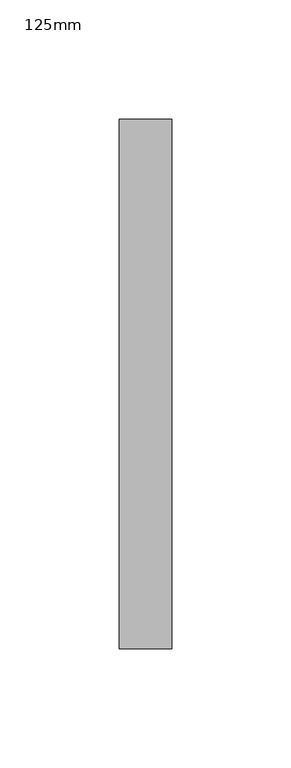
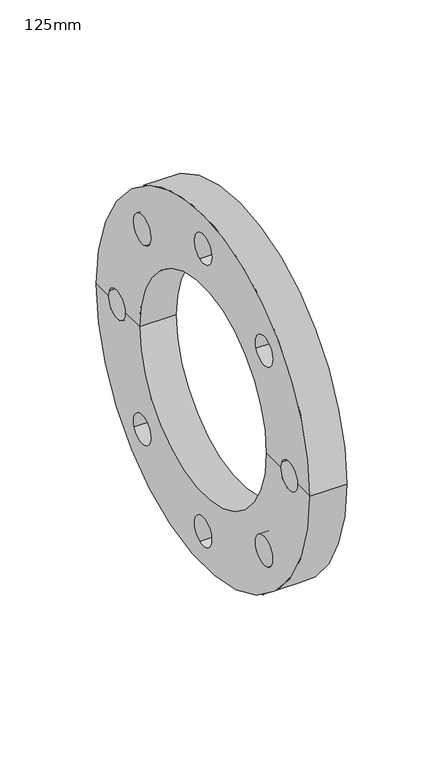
"""IFC4 building model written with IfcOpenShell, lengths in millimetres: pipe fitting geometry, Durapipe_PipeFitting_PVC_BackingFlange : 125mm."""

from ifc_helpers import new_model, si_unit, frame, origin, place, context, project, spatial, polyline, circle_curve, source, transform, mapped, element, save
from ifc_brep_helpers import plane_surface, cylinder_surface, revolved_surface, advanced_brep


def pipe_fitting_125mm_e40749f2(model_context):
    return source(origin(), model_context, "Body", "AdvancedBrep", [
        advanced_brep(
        [(-11.0, 111.0, 0.0), (11.0, 111.0, 0.0), (11.0, -111.0, 0.0), (-11.0, -111.0, 0.0), (-11.0, -98.4999325, 0.0), (-11.0, -97.8136303, -3.4804683), (-11.0, -80.5000552, 0.0), (-11.0, -66.0, 0.0), (-11.0, 66.0, 0.0), (-11.0, 80.5000552, 0.0), (-11.0, 81.1863574, -3.4140075), (-11.0, 98.4999325, 0.0), (-11.0, 71.625744, -66.7036186), (-11.0, 54.993356, -59.8214917), (-11.0, 3.4804683, -97.8136303), (-11.0, -3.4140075, -81.1863574), (-11.0, -66.7036186, -71.625744), (-11.0, -59.8214917, -54.993356), (-11.0, 97.8136303, 3.4804683), (-11.0, -81.1863574, 3.4140075), (-11.0, 66.7036186, 71.625744), (-11.0, 59.8214917, 54.993356), (-11.0, -3.4804683, 97.8136303), (-11.0, 3.4140075, 81.1863574), (-11.0, -71.625744, 66.7036186), (-11.0, -54.993356, 59.8214917), (11.0, 66.0, 0.0), (11.0, -66.0, 0.0), (11.0, -80.5000552, 0.0), (11.0, -97.8136303, -3.4804683), (11.0, -98.4999325, 0.0), (11.0, 98.4999325, 0.0), (11.0, 81.1863574, -3.4140075), (11.0, 80.5000552, 0.0), (11.0, 54.993356, -59.8214917), (11.0, 71.625744, -66.7036186), (11.0, -3.4140075, -81.1863574), (11.0, 3.4804683, -97.8136303), (11.0, -59.8214917, -54.993356), (11.0, -66.7036186, -71.625744), (11.0, 97.8136303, 3.4804683), (11.0, -81.1863574, 3.4140075), (11.0, 59.8214917, 54.993356), (11.0, 66.7036186, 71.625744), (11.0, 3.4140075, 81.1863574), (11.0, -3.4804683, 97.8136303), (11.0, -54.993356, 59.8214917), (11.0, -71.625744, 66.7036186)],
        [
            (0, 1),
            (1, 2, circle_curve(frame((11.0, 0.0, 0.0), z_axis=(-1.0, 0.0, 0.0), x_axis=(0.0, 1.0, 0.0)), 111.0)),
            (2, 3),
            (3, 0, circle_curve(frame((-11.0, 0.0, 0.0), z_axis=(1.0, 0.0, 0.0), x_axis=(0.0, 1.0, 0.0)), 111.0)),
            (0, 3, circle_curve(frame((-11.0, 0.0, 0.0), z_axis=(1.0, 0.0, 0.0), x_axis=(0.0, 1.0, 0.0)), 111.0)),
            (2, 1, circle_curve(frame((11.0, 0.0, 0.0), z_axis=(-1.0, 0.0, 0.0), x_axis=(0.0, 1.0, 0.0)), 111.0)),
            (3, 4),
            (4, 5, circle_curve(frame((-11.0, -89.4999938, -0.0332304), z_axis=(1.0, 0.0, 0.0), x_axis=(0.0, -0.9237373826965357, -0.38302643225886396)), 9.0)),
            (5, 6, circle_curve(frame((-11.0, -89.4999938, -0.0332304), z_axis=(1.0, 0.0, 0.0), x_axis=(0.0, -0.9237373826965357, -0.38302643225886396)), 9.0)),
            (6, 7),
            (7, 8, circle_curve(frame((-11.0, 0.0, 0.0), z_axis=(1.0, 0.0, 0.0), x_axis=(0.0, 1.0, 0.0)), 66.0)),
            (8, 9),
            (9, 10, circle_curve(frame((-11.0, 89.4999938, 0.0332304), z_axis=(1.0, 0.0, 0.0), x_axis=(0.0, 0.92373738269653, 0.38302643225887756)), 9.0)),
            (10, 11, circle_curve(frame((-11.0, 89.4999938, 0.0332304), z_axis=(1.0, 0.0, 0.0), x_axis=(0.0, 0.92373738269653, 0.38302643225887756)), 9.0)),
            (11, 0),
            (12, 13, circle_curve(frame((-11.0, 63.30955, -63.2625551), z_axis=(1.0, 0.0, 0.0), x_axis=(0.0, 0.9240215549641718, -0.3823403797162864)), 9.0)),
            (13, 12, circle_curve(frame((-11.0, 63.30955, -63.2625551), z_axis=(1.0, 0.0, 0.0), x_axis=(0.0, 0.9240215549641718, -0.3823403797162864)), 9.0)),
            (14, 15, circle_curve(frame((-11.0, 0.0332304, -89.4999938), z_axis=(1.0, 0.0, 0.0), x_axis=(0.0, 0.3830264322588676, -0.9237373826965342)), 9.0)),
            (15, 14, circle_curve(frame((-11.0, 0.0332304, -89.4999938), z_axis=(1.0, 0.0, 0.0), x_axis=(0.0, 0.3830264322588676, -0.9237373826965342)), 9.0)),
            (16, 17, circle_curve(frame((-11.0, -63.2625551, -63.30955), z_axis=(1.0, 0.0, 0.0), x_axis=(0.0, -0.3823403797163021, -0.9240215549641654)), 9.0)),
            (17, 16, circle_curve(frame((-11.0, -63.2625551, -63.30955), z_axis=(1.0, 0.0, 0.0), x_axis=(0.0, -0.3823403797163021, -0.9240215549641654)), 9.0)),
            (11, 18, circle_curve(frame((-11.0, 89.4999938, 0.0332304), z_axis=(1.0, 0.0, 0.0), x_axis=(0.0, 0.92373738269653, 0.38302643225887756)), 9.0)),
            (18, 9, circle_curve(frame((-11.0, 89.4999938, 0.0332304), z_axis=(1.0, 0.0, 0.0), x_axis=(0.0, 0.92373738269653, 0.38302643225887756)), 9.0)),
            (8, 7, circle_curve(frame((-11.0, 0.0, 0.0), z_axis=(1.0, 0.0, 0.0), x_axis=(0.0, 1.0, 0.0)), 66.0)),
            (6, 19, circle_curve(frame((-11.0, -89.4999938, -0.0332304), z_axis=(1.0, 0.0, 0.0), x_axis=(0.0, -0.9237373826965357, -0.38302643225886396)), 9.0)),
            (19, 4, circle_curve(frame((-11.0, -89.4999938, -0.0332304), z_axis=(1.0, 0.0, 0.0), x_axis=(0.0, -0.9237373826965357, -0.38302643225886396)), 9.0)),
            (20, 21, circle_curve(frame((-11.0, 63.2625551, 63.30955), z_axis=(1.0, 0.0, 0.0), x_axis=(0.0, 0.3823403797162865, 0.9240215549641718)), 9.0)),
            (21, 20, circle_curve(frame((-11.0, 63.2625551, 63.30955), z_axis=(1.0, 0.0, 0.0), x_axis=(0.0, 0.3823403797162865, 0.9240215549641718)), 9.0)),
            (22, 23, circle_curve(frame((-11.0, -0.0332304, 89.4999938), z_axis=(1.0, 0.0, 0.0), x_axis=(0.0, -0.38302643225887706, 0.9237373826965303)), 9.0)),
            (23, 22, circle_curve(frame((-11.0, -0.0332304, 89.4999938), z_axis=(1.0, 0.0, 0.0), x_axis=(0.0, -0.38302643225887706, 0.9237373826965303)), 9.0)),
            (24, 25, circle_curve(frame((-11.0, -63.30955, 63.2625551), z_axis=(1.0, 0.0, 0.0), x_axis=(0.0, -0.9240215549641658, 0.38234037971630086)), 9.0)),
            (25, 24, circle_curve(frame((-11.0, -63.30955, 63.2625551), z_axis=(1.0, 0.0, 0.0), x_axis=(0.0, -0.9240215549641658, 0.38234037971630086)), 9.0)),
            (26, 8),
            (7, 27),
            (27, 26, circle_curve(frame((11.0, 0.0, 0.0), z_axis=(1.0, 0.0, 0.0), x_axis=(0.0, 1.0, 0.0)), 66.0)),
            (26, 27, circle_curve(frame((11.0, 0.0, 0.0), z_axis=(1.0, 0.0, 0.0), x_axis=(0.0, 1.0, 0.0)), 66.0)),
            (27, 28),
            (28, 29, circle_curve(frame((11.0, -89.4999938, -0.0332304), z_axis=(-1.0, 0.0, 0.0), x_axis=(0.0, -0.9237373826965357, -0.38302643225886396)), 9.0)),
            (29, 30, circle_curve(frame((11.0, -89.4999938, -0.0332304), z_axis=(-1.0, 0.0, 0.0), x_axis=(0.0, -0.9237373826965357, -0.38302643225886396)), 9.0)),
            (30, 2),
            (1, 31),
            (31, 32, circle_curve(frame((11.0, 89.4999938, 0.0332304), z_axis=(-1.0, 0.0, 0.0), x_axis=(0.0, 0.92373738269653, 0.38302643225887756)), 9.0)),
            (32, 33, circle_curve(frame((11.0, 89.4999938, 0.0332304), z_axis=(-1.0, 0.0, 0.0), x_axis=(0.0, 0.92373738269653, 0.38302643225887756)), 9.0)),
            (33, 26),
            (34, 35, circle_curve(frame((11.0, 63.30955, -63.2625551), z_axis=(-1.0, 0.0, 0.0), x_axis=(0.0, 0.9240215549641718, -0.3823403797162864)), 9.0)),
            (35, 34, circle_curve(frame((11.0, 63.30955, -63.2625551), z_axis=(-1.0, 0.0, 0.0), x_axis=(0.0, 0.9240215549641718, -0.3823403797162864)), 9.0)),
            (36, 37, circle_curve(frame((11.0, 0.0332304, -89.4999938), z_axis=(-1.0, 0.0, 0.0), x_axis=(0.0, 0.3830264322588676, -0.9237373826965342)), 9.0)),
            (37, 36, circle_curve(frame((11.0, 0.0332304, -89.4999938), z_axis=(-1.0, 0.0, 0.0), x_axis=(0.0, 0.3830264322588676, -0.9237373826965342)), 9.0)),
            (38, 39, circle_curve(frame((11.0, -63.2625551, -63.30955), z_axis=(-1.0, 0.0, 0.0), x_axis=(0.0, -0.3823403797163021, -0.9240215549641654)), 9.0)),
            (39, 38, circle_curve(frame((11.0, -63.2625551, -63.30955), z_axis=(-1.0, 0.0, 0.0), x_axis=(0.0, -0.3823403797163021, -0.9240215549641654)), 9.0)),
            (33, 40, circle_curve(frame((11.0, 89.4999938, 0.0332304), z_axis=(-1.0, 0.0, 0.0), x_axis=(0.0, 0.92373738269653, 0.38302643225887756)), 9.0)),
            (40, 31, circle_curve(frame((11.0, 89.4999938, 0.0332304), z_axis=(-1.0, 0.0, 0.0), x_axis=(0.0, 0.92373738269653, 0.38302643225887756)), 9.0)),
            (30, 41, circle_curve(frame((11.0, -89.4999938, -0.0332304), z_axis=(-1.0, 0.0, 0.0), x_axis=(0.0, -0.9237373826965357, -0.38302643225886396)), 9.0)),
            (41, 28, circle_curve(frame((11.0, -89.4999938, -0.0332304), z_axis=(-1.0, 0.0, 0.0), x_axis=(0.0, -0.9237373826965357, -0.38302643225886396)), 9.0)),
            (42, 43, circle_curve(frame((11.0, 63.2625551, 63.30955), z_axis=(-1.0, 0.0, 0.0), x_axis=(0.0, 0.3823403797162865, 0.9240215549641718)), 9.0)),
            (43, 42, circle_curve(frame((11.0, 63.2625551, 63.30955), z_axis=(-1.0, 0.0, 0.0), x_axis=(0.0, 0.3823403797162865, 0.9240215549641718)), 9.0)),
            (44, 45, circle_curve(frame((11.0, -0.0332304, 89.4999938), z_axis=(-1.0, 0.0, 0.0), x_axis=(0.0, -0.38302643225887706, 0.9237373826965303)), 9.0)),
            (45, 44, circle_curve(frame((11.0, -0.0332304, 89.4999938), z_axis=(-1.0, 0.0, 0.0), x_axis=(0.0, -0.38302643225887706, 0.9237373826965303)), 9.0)),
            (46, 47, circle_curve(frame((11.0, -63.30955, 63.2625551), z_axis=(-1.0, 0.0, 0.0), x_axis=(0.0, -0.9240215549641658, 0.38234037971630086)), 9.0)),
            (47, 46, circle_curve(frame((11.0, -63.30955, 63.2625551), z_axis=(-1.0, 0.0, 0.0), x_axis=(0.0, -0.9240215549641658, 0.38234037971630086)), 9.0)),
            (36, 15),
            (14, 37),
            (34, 13),
            (12, 35),
            (32, 10),
            (18, 40),
            (42, 21),
            (20, 43),
            (44, 23),
            (22, 45),
            (46, 25),
            (24, 47),
            (41, 19),
            (5, 29),
            (38, 17),
            (16, 39),
        ],
        [
            cylinder_surface(frame((-29.7738734, 0.0, 0.0), z_axis=(-1.0, 0.0, 0.0), x_axis=(0.0, 1.0, 0.0)), 111.0),
            plane_surface(frame((-11.0, 0.0, 0.0), z_axis=(-1.0, 0.0, 0.0), x_axis=(0.0, 1.0, 0.0))),
            revolved_surface(polyline([(-11.0, 66.0, 0.0), (11.0, 66.0, 0.0)]), (-29.7738734, 0.0, 0.0), (-1.0, 0.0, 0.0)),
            plane_surface(frame((11.0, 0.0, 0.0), z_axis=(1.0, 0.0, 0.0), x_axis=(0.0, 1.0, 0.0))),
            revolved_surface(polyline([(-11.000000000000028, 3.4804682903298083, -97.81363024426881), (10.999999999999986, 3.4804682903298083, -97.81363024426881)]), (39.0, 0.0332304, -89.4999938), (-1.0000000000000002, 0.0, 0.0)),
            revolved_surface(polyline([(-11.0, 71.62574399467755, -66.70361851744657), (11.0, 71.62574399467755, -66.70361851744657)]), (39.0, 63.30955, -63.2625551), (-1.0, 0.0, 0.0)),
            revolved_surface(polyline([(-11.0, 97.81363024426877, 3.480468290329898), (11.0, 97.81363024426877, 3.480468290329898)]), (39.0, 89.4999938, 0.0332304), (-1.0, 0.0, 0.0)),
            revolved_surface(polyline([(-11.000000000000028, 66.70361851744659, 71.62574399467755), (10.999999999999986, 66.70361851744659, 71.62574399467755)]), (39.0, 63.2625551, 63.30955), (-1.0000000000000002, 0.0, 0.0)),
            revolved_surface(polyline([(-11.000000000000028, -3.4804682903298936, 97.81363024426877), (10.999999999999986, -3.4804682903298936, 97.81363024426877)]), (39.0, -0.0332304, 89.4999938), (-1.0000000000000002, 0.0, 0.0)),
            revolved_surface(polyline([(-11.0, -71.62574399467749, 66.70361851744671), (11.0, -71.62574399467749, 66.70361851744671)]), (39.0, -63.30955, 63.2625551), (-1.0, 0.0, 0.0)),
            revolved_surface(polyline([(-11.000000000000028, -97.81363024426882, -3.4804682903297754), (10.999999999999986, -97.81363024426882, -3.4804682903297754)]), (39.0, -89.4999938, -0.0332304), (-1.0000000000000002, 0.0, 0.0)),
            revolved_surface(polyline([(-11.000000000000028, -66.70361851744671, -71.62574399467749), (10.999999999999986, -66.70361851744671, -71.62574399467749)]), (39.0, -63.2625551, -63.30955), (-1.0000000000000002, 0.0, 0.0)),
        ],
        [
            (0, [[1, 2, 3, 4]]),
            (0, [[-1, 5, -3, 6]]),
            (1, [[-4, 7, 8, 9, 10, 11, 12, 13, 14, 15], [16, 17], [18, 19], [20, 21]]),
            (1, [[-5, -15, 22, 23, -12, 24, -10, 25, 26, -7], [27, 28], [29, 30], [31, 32]]),
            (2, [[33, -11, 34, 35]]),
            (2, [[-33, 36, -34, -24]]),
            (3, [[-35, 37, 38, 39, 40, -2, 41, 42, 43, 44], [45, 46], [47, 48], [49, 50]]),
            (3, [[-36, -44, 51, 52, -41, -6, -40, 53, 54, -37], [55, 56], [57, 58], [59, 60]]),
            (4, [[61, -18, 62, -47]]),
            (4, [[-61, -48, -62, -19]]),
            (5, [[63, -16, 64, -45]]),
            (5, [[-63, -46, -64, -17]]),
            (6, [[65, -13, -23, 66, -51, -43]]),
            (6, [[-65, -42, -52, -66, -22, -14]]),
            (7, [[67, -27, 68, -55]]),
            (7, [[-67, -56, -68, -28]]),
            (8, [[69, -29, 70, -57]]),
            (8, [[-69, -58, -70, -30]]),
            (9, [[71, -31, 72, -59]]),
            (9, [[-71, -60, -72, -32]]),
            (10, [[73, -25, -9, 74, -38, -54]]),
            (10, [[-73, -53, -39, -74, -8, -26]]),
            (11, [[75, -20, 76, -49]]),
            (11, [[-75, -50, -76, -21]]),
        ],
    ),
    ])


if __name__ == "__main__":
    model = new_model("IFC4")
    model_context = context("Model", 3, world=origin())
    ifc_project = project(units=[si_unit("LENGTHUNIT", "METRE", prefix="MILLI")], contexts=[model_context])
    site = spatial("IfcSite", under=ifc_project)
    building = spatial("IfcBuilding", under=site)
    placement = place(None, origin())
    pipe_fitting_125mm_shape = pipe_fitting_125mm_e40749f2(model_context)
    element("IfcPipeFitting", 1, ObjectType="Durapipe_PipeFitting_PVC_BackingFlange : 125mm", at=placement, inside=building, context=model_context, shape_type="MappedRepresentation", body=[
        mapped(pipe_fitting_125mm_shape, transform((0.0, 0.0, 0.0), x_axis=(1.0, 0.0, 0.0), y_axis=(0.0, 1.0, 0.0), z_axis=(0.0, 0.0, 1.0))),
    ])
    save(model, "model.ifc")
